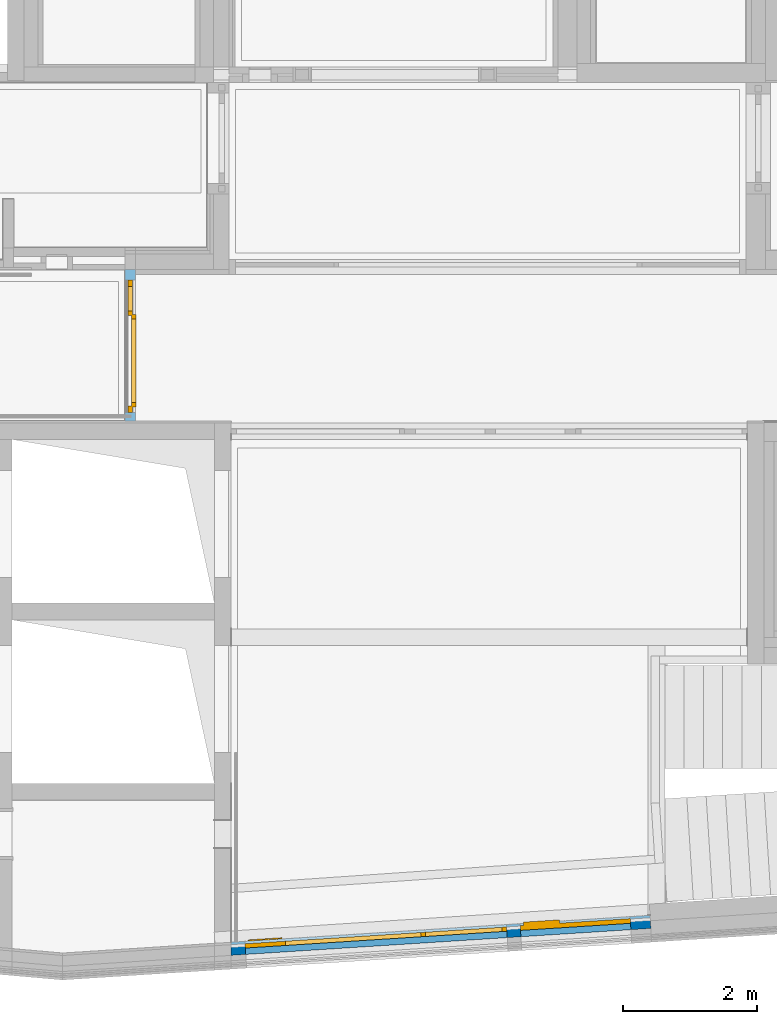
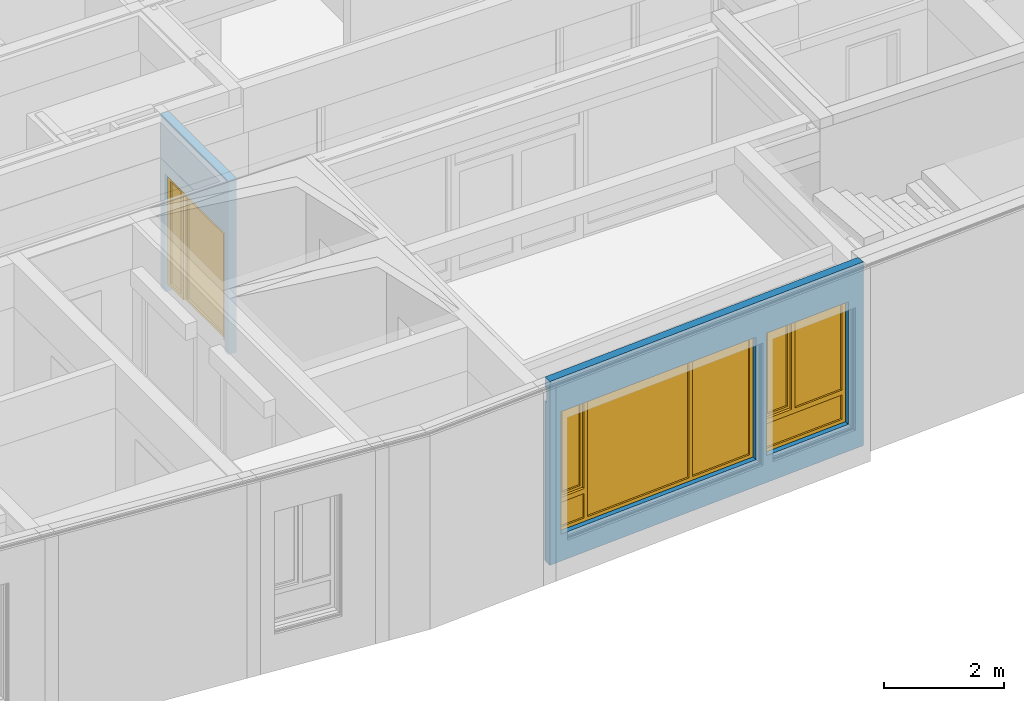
# One storey, part 84 of 222: 2 windows, 1 door, 1 wall, 5 openings, plus 2 elements that do not belong to this part.
"""IFC4 building model written with IfcOpenShell, lengths in metres."""

from ifc_helpers import new_model, entity, si_unit, converted_unit, derived_unit, frame, frame_2d, origin, origin_with_axes, place, context, subcontext, project, spatial, polyline, rectangle, outline, extrude, closed_shell, open_shell, faceted_brep, surface_model, source, transform, mapped, material, type_object, element, fill, save


model = new_model("IFC4")

# Units and contexts
model_context = context("Model", 3, precision=1e-05, world=origin())
body_context = subcontext(model_context, "Body", "Model", "MODEL_VIEW")
ifc_project = project(units=[si_unit("LENGTHUNIT", "METRE"), si_unit("AREAUNIT", "SQUARE_METRE"), si_unit("VOLUMEUNIT", "CUBIC_METRE"), si_unit("MASSUNIT", "GRAM", prefix="KILO"), converted_unit("PLANEANGLEUNIT", "DEGREE", entity("IfcPlaneAngleMeasure", 0.0174532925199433), si_unit("PLANEANGLEUNIT", "RADIAN"), dimensions=[0, 0, 0, 0, 0, 0, 0]), derived_unit("THERMALTRANSMITTANCEUNIT", [(si_unit("POWERUNIT", "WATT"), 1), (si_unit("THERMODYNAMICTEMPERATUREUNIT", "KELVIN"), -1), (si_unit("LENGTHUNIT", "METRE"), -2)]), derived_unit("VOLUMETRICFLOWRATEUNIT", [(si_unit("LENGTHUNIT", "METRE"), 3), (converted_unit("TIMEUNIT", "hour", entity("IfcTimeMeasure", 3600.0), si_unit("TIMEUNIT", "SECOND"), dimensions=[0, 0, 1, 0, 0, 0, 0]), -1), (si_unit("LENGTHUNIT", "METRE"), -1)])], contexts=[model_context])

# Site, building, storey
site_placement = place(None, origin())
site = spatial("IfcSite", under=ifc_project, at=site_placement, Name="Psychiatrie Neubau Wunstorf", CompositionType="ELEMENT")
building_placement = place(site_placement, origin())
building = spatial("IfcBuilding", under=site, at=building_placement, Name="Neubau H2 Stationsgebäude", CompositionType="ELEMENT")
storey_placement = place(building_placement, frame((0.0, 0.0, 3.6)))
storey = spatial("IfcBuildingStorey", under=building, at=storey_placement, Name="H2 Ebene +1", CompositionType="ELEMENT", Elevation=3.6)

# Wall, openings, windows
ifc_material_1 = material(Name="WA-LB")
wall_1_placement = place(storey_placement, frame((56.822464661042, -6.84826005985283, 0.0), z_axis=(0.0, 0.0, 1.0), x_axis=(-0.997944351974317, -0.0640864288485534, 0.0)))
wall_1 = element("IfcWall", 1, at=wall_1_placement, inside=storey, material=ifc_material_1, context=body_context, shape_type="SweptSolid", body=[
    extrude(outline(polyline([(-6.28769706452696, -0.0360000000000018), (-0.00231186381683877, -0.0360000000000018), (0.0, 0.0), (-6.28769523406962, 0.0), (-6.28769706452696, -0.0360000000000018)])), frame((6.28769706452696, 0.0360000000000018, 0.0), z_axis=(0.0, 0.0, 1.0), x_axis=(1.0, 0.0, 0.0)), (0.0, 0.0, 1.0), 3.25),
])
opening_1_placement = place(wall_1_placement, frame((1.94960291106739, 0.0359999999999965, 0.55), z_axis=(-5.68434188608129e-14, -1.0, 0.0), x_axis=(0.0, 0.0, 1.0)))
opening_1 = element("IfcOpeningElement", 2, at=opening_1_placement, cuts=wall_1, Name="Fensteröffnung", ObjectType="Opening", context=body_context, shape_type="SweptSolid", body=[
    extrude(outline(polyline([(2.5, 1.64999999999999), (2.5, 0.0), (0.0, 0.0), (0.0, 1.64999999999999), (2.5, 1.64999999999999)])), origin_with_axes(), (0.0, 0.0, 1.0), 0.0359999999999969),
])
opening_2_placement = place(wall_1_placement, frame((2.15538520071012, 0.0, 0.55), z_axis=(6.31593542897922e-14, 1.0, 0.0), x_axis=(0.0, 0.0, 1.0)))
opening_2 = element("IfcOpeningElement", 3, at=opening_2_placement, cuts=wall_1, Name="Fensteröffnung", ObjectType="Opening", context=body_context, shape_type="SweptSolid", body=[
    extrude(outline(polyline([(2.5, 3.92257788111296), (2.5, 0.0), (0.0, 0.0), (0.0, 3.92257788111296), (2.5, 3.92257788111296)])), origin_with_axes(), (0.0, 0.0, 1.0), 0.0359999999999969),
])
shared_shape_1 = source(origin_with_axes(), body_context, "Body", "SurfaceModel", [
    surface_model("IfcShellBasedSurfaceModel", [(1.65, 0.0, 2.5), (1.65, 0.0, 0.0), (1.58, 0.0, 0.0), (1.58, 0.0, 2.5), (1.65, 0.0700000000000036, 0.0), (1.65, 0.0700000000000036, 2.5), (1.57999999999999, 0.0700000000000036, 2.5), (1.57999999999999, 0.0700000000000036, 0.0)], [closed_shell([[[0, 1, 2, 3]], [[4, 5, 6, 7]], [[1, 0, 5, 4]], [[2, 1, 4, 7]], [[3, 2, 7, 6]], [[0, 3, 6, 5]]], orient=[[False], [False], [False], [False], [False], [False]])]),
    surface_model("IfcShellBasedSurfaceModel", [(0.07, 0.0, 2.5), (0.07, 0.0, 0.0), (0.0, 0.0, 0.0), (0.0, 0.0, 2.5), (0.07, 0.0700000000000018, 0.0), (0.07, 0.0700000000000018, 2.5), (0.0, 0.0700000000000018, 2.5), (0.0, 0.0700000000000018, 0.0)], [closed_shell([[[0, 1, 2, 3]], [[4, 5, 6, 7]], [[1, 0, 5, 4]], [[2, 1, 4, 7]], [[3, 2, 7, 6]], [[0, 3, 6, 5]]], orient=[[False], [False], [False], [False], [False], [False]])]),
    surface_model("IfcShellBasedSurfaceModel", [(1.58, 0.0, 0.07), (1.58, 0.0, 0.0), (0.07, 0.0, 0.0), (0.07, 0.0, 0.07), (1.57999999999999, 0.0700000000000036, 0.0), (1.57999999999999, 0.0700000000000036, 0.07), (0.07, 0.0700000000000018, 0.07), (0.07, 0.0700000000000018, 0.0)], [closed_shell([[[0, 1, 2, 3]], [[4, 5, 6, 7]], [[1, 0, 5, 4]], [[2, 1, 4, 7]], [[3, 2, 7, 6]], [[0, 3, 6, 5]]], orient=[[False], [False], [False], [False], [False], [False]])]),
    surface_model("IfcShellBasedSurfaceModel", [(1.58, 0.0, 2.5), (1.58, 0.0, 2.43), (0.07, 0.0, 2.43), (0.07, 0.0, 2.5), (1.57999999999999, 0.0700000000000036, 2.43), (1.57999999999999, 0.0700000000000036, 2.5), (0.07, 0.0700000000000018, 2.5), (0.07, 0.0700000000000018, 2.43)], [closed_shell([[[0, 1, 2, 3]], [[4, 5, 6, 7]], [[1, 0, 5, 4]], [[2, 1, 4, 7]], [[3, 2, 7, 6]], [[0, 3, 6, 5]]], orient=[[False], [False], [False], [False], [False], [False]])]),
    surface_model("IfcShellBasedSurfaceModel", [(1.58, 0.0, 0.67), (1.58, 0.0, 0.57), (0.07, 0.0, 0.57), (0.07, 0.0, 0.67), (1.57999999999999, 0.0700000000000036, 0.57), (1.57999999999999, 0.0700000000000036, 0.67), (0.07, 0.0700000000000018, 0.67), (0.07, 0.0700000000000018, 0.57)], [closed_shell([[[0, 1, 2, 3]], [[4, 5, 6, 7]], [[1, 0, 5, 4]], [[2, 1, 4, 7]], [[3, 2, 7, 6]], [[0, 3, 6, 5]]], orient=[[False], [False], [False], [False], [False], [False]])]),
    surface_model("IfcShellBasedSurfaceModel", [(1.57999999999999, 0.0350000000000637, 0.07), (0.07, 0.0350000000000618, 0.07), (0.07, 0.0350000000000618, 0.57), (1.57999999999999, 0.0350000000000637, 0.57)], [open_shell([[[0, 1, 2, 3]]], orient=[[False]])]),
    surface_model("IfcShellBasedSurfaceModel", [(1.08, 0.0, 2.43), (1.08, 0.0, 0.67), (1.01, 0.0, 0.67), (1.01, 0.0, 2.43), (1.08, 0.0700000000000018, 0.67), (1.08, 0.0700000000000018, 2.43), (1.01, 0.0700000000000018, 2.43), (1.01, 0.0700000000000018, 0.67)], [closed_shell([[[0, 1, 2, 3]], [[4, 5, 6, 7]], [[1, 0, 5, 4]], [[2, 1, 4, 7]], [[3, 2, 7, 6]], [[0, 3, 6, 5]]], orient=[[False], [False], [False], [False], [False], [False]])]),
    surface_model("IfcShellBasedSurfaceModel", [(1.6, -0.0499999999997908, 2.45), (1.6, -0.0499999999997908, 0.65), (1.53, -0.049999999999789, 0.65), (1.53, -0.049999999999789, 2.45), (1.6, 0.0200000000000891, 0.65), (1.6, 0.0200000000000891, 2.45), (1.53, 0.0200000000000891, 2.45), (1.53, 0.0200000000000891, 0.65)], [closed_shell([[[0, 1, 2, 3]], [[4, 5, 6, 7]], [[1, 0, 5, 4]], [[2, 1, 4, 7]], [[3, 2, 7, 6]], [[0, 3, 6, 5]]], orient=[[False], [False], [False], [False], [False], [False]])]),
    surface_model("IfcShellBasedSurfaceModel", [(1.12999999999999, -0.049999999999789, 2.45), (1.12999999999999, -0.049999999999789, 0.65), (1.05999999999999, -0.049999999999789, 0.65), (1.05999999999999, -0.049999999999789, 2.45), (1.13, 0.0200000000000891, 0.65), (1.13, 0.0200000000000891, 2.45), (1.05999999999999, 0.0200000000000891, 2.45), (1.05999999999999, 0.0200000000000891, 0.65)], [closed_shell([[[0, 1, 2, 3]], [[4, 5, 6, 7]], [[1, 0, 5, 4]], [[2, 1, 4, 7]], [[3, 2, 7, 6]], [[0, 3, 6, 5]]], orient=[[False], [False], [False], [False], [False], [False]])]),
    surface_model("IfcShellBasedSurfaceModel", [(1.53, -0.049999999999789, 0.72), (1.53, -0.049999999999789, 0.65), (1.12999999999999, -0.049999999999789, 0.65), (1.12999999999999, -0.049999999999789, 0.72), (1.53, 0.0200000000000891, 0.65), (1.53, 0.0200000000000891, 0.72), (1.13, 0.0200000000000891, 0.72), (1.13, 0.0200000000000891, 0.65)], [closed_shell([[[0, 1, 2, 3]], [[4, 5, 6, 7]], [[1, 0, 5, 4]], [[2, 1, 4, 7]], [[3, 2, 7, 6]], [[0, 3, 6, 5]]], orient=[[False], [False], [False], [False], [False], [False]])]),
    surface_model("IfcShellBasedSurfaceModel", [(1.53, -0.049999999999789, 2.45), (1.53, -0.049999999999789, 2.38), (1.12999999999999, -0.049999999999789, 2.38), (1.12999999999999, -0.049999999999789, 2.45), (1.53, 0.0200000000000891, 2.38), (1.53, 0.0200000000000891, 2.45), (1.13, 0.0200000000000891, 2.45), (1.13, 0.0200000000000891, 2.38)], [closed_shell([[[0, 1, 2, 3]], [[4, 5, 6, 7]], [[1, 0, 5, 4]], [[2, 1, 4, 7]], [[3, 2, 7, 6]], [[0, 3, 6, 5]]], orient=[[False], [False], [False], [False], [False], [False]])]),
    surface_model("IfcShellBasedSurfaceModel", [(1.01, 0.0350000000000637, 0.67), (0.07, 0.0350000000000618, 0.67), (0.07, 0.0350000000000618, 2.43), (1.01, 0.0350000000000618, 2.43)], [open_shell([[[0, 1, 2, 3]]], orient=[[False]])]),
    surface_model("IfcShellBasedSurfaceModel", [(1.53, -0.0149999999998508, 0.72), (1.12999999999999, -0.0149999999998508, 0.72), (1.12999999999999, -0.0149999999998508, 2.38), (1.53, -0.0149999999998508, 2.38)], [open_shell([[[0, 1, 2, 3]]], orient=[[False]])]),
])
window_1_placement = place(opening_1_placement, frame((0.0, 1.65, 0.00600000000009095), z_axis=(1.0, 0.0, 0.0), x_axis=(0.0, -1.0, -5.63576962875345e-14)))
window_1 = element("IfcWindow", 4, at=window_1_placement, inside=storey, Name="Fenster", OverallHeight=2.5, OverallWidth=1.65, PartitioningType="USERDEFINED", PredefinedType="WINDOW", context=body_context, shape_type="MappedRepresentation", body=[
    mapped(shared_shape_1, transform((0.0, 0.0, 0.0), x_axis=(1.0, 0.0, 0.0), y_axis=(0.0, 1.0, 0.0), z_axis=(0.0, 0.0, 1.0), scale=1.0)),
])
fill(opening_1, window_1)
shared_shape_2 = source(origin_with_axes(), body_context, "Body", "SurfaceModel", [
    surface_model("IfcShellBasedSurfaceModel", [(0.0, 0.0, 2.5), (0.0699999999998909, 0.0, 2.5), (0.0699999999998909, 0.0, 0.0), (0.0, 0.0, 0.0), (0.0, 0.0700000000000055, 0.0), (0.0699999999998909, 0.0700000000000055, 0.0), (0.0699999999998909, 0.0700000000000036, 2.5), (0.0, 0.0700000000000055, 2.5)], [closed_shell([[[0, 1, 2, 3]], [[4, 5, 6, 7]], [[3, 4, 7, 0]], [[2, 5, 4, 3]], [[1, 6, 5, 2]], [[0, 7, 6, 1]]], orient=[[False], [False], [False], [False], [False], [False]])]),
    surface_model("IfcShellBasedSurfaceModel", [(3.85257788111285, 0.0, 2.5), (3.92257788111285, 0.0, 2.5), (3.92257788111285, 0.0, 0.0), (3.85257788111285, 0.0, 0.0), (3.85257788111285, 0.0700000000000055, 0.0), (3.92257788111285, 0.0700000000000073, 0.0), (3.92257788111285, 0.0700000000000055, 2.5), (3.85257788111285, 0.0700000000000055, 2.5)], [closed_shell([[[0, 1, 2, 3]], [[4, 5, 6, 7]], [[3, 4, 7, 0]], [[2, 5, 4, 3]], [[1, 6, 5, 2]], [[0, 7, 6, 1]]], orient=[[False], [False], [False], [False], [False], [False]])]),
    surface_model("IfcShellBasedSurfaceModel", [(0.0699999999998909, 0.0, 0.07), (3.85257788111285, 0.0, 0.07), (3.85257788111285, 0.0, 0.0), (0.0699999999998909, 0.0, 0.0), (0.0699999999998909, 0.0700000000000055, 0.0), (3.85257788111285, 0.0700000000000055, 0.0), (3.85257788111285, 0.0700000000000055, 0.07), (0.0699999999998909, 0.0700000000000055, 0.07)], [closed_shell([[[0, 1, 2, 3]], [[4, 5, 6, 7]], [[3, 4, 7, 0]], [[2, 5, 4, 3]], [[1, 6, 5, 2]], [[0, 7, 6, 1]]], orient=[[False], [False], [False], [False], [False], [False]])]),
    surface_model("IfcShellBasedSurfaceModel", [(0.0699999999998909, 0.0, 2.5), (3.85257788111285, 0.0, 2.5), (3.85257788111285, 0.0, 2.43), (0.0699999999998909, 0.0, 2.43), (0.0699999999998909, 0.0700000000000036, 2.43), (3.85257788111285, 0.0700000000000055, 2.43), (3.85257788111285, 0.0700000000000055, 2.5), (0.0699999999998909, 0.0700000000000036, 2.5)], [closed_shell([[[0, 1, 2, 3]], [[4, 5, 6, 7]], [[3, 4, 7, 0]], [[2, 5, 4, 3]], [[1, 6, 5, 2]], [[0, 7, 6, 1]]], orient=[[False], [False], [False], [False], [False], [False]])]),
    surface_model("IfcShellBasedSurfaceModel", [(0.534999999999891, 0.0, 2.43), (0.604999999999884, 0.0, 2.43), (0.604999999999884, 0.0, 0.07), (0.534999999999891, 0.0, 0.07), (0.534999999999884, 0.0700000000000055, 0.07), (0.604999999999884, 0.0700000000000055, 0.07), (0.604999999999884, 0.0700000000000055, 2.43), (0.534999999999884, 0.0700000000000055, 2.43)], [closed_shell([[[0, 1, 2, 3]], [[4, 5, 6, 7]], [[3, 4, 7, 0]], [[2, 5, 4, 3]], [[1, 6, 5, 2]], [[0, 7, 6, 1]]], orient=[[False], [False], [False], [False], [False], [False]])]),
    surface_model("IfcShellBasedSurfaceModel", [(2.63499999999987, 0.0, 2.43), (2.70499999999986, 0.0, 2.43), (2.70499999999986, 0.0, 0.07), (2.63499999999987, 0.0, 0.07), (2.63499999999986, 0.0700000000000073, 0.07), (2.70499999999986, 0.0700000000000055, 0.07), (2.70499999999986, 0.0700000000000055, 2.43), (2.63499999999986, 0.0700000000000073, 2.43)], [closed_shell([[[0, 1, 2, 3]], [[4, 5, 6, 7]], [[3, 4, 7, 0]], [[2, 5, 4, 3]], [[1, 6, 5, 2]], [[0, 7, 6, 1]]], orient=[[False], [False], [False], [False], [False], [False]])]),
    surface_model("IfcShellBasedSurfaceModel", [(0.0699999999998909, 0.0, 0.67), (0.534999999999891, 0.0, 0.67), (0.534999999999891, 0.0, 0.57), (0.0699999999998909, 0.0, 0.57), (0.0699999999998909, 0.0700000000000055, 0.57), (0.534999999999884, 0.0700000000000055, 0.57), (0.534999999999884, 0.0700000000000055, 0.67), (0.0699999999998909, 0.0700000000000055, 0.67)], [closed_shell([[[0, 1, 2, 3]], [[4, 5, 6, 7]], [[3, 4, 7, 0]], [[2, 5, 4, 3]], [[1, 6, 5, 2]], [[0, 7, 6, 1]]], orient=[[False], [False], [False], [False], [False], [False]])]),
    surface_model("IfcShellBasedSurfaceModel", [(0.604999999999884, 0.0350000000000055, 0.07), (0.604999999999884, 0.0350000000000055, 2.43), (2.63499999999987, 0.0350000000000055, 2.43), (2.63499999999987, 0.0350000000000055, 0.07)], [open_shell([[[0, 1, 2, 3]]], orient=[[False]])]),
    surface_model("IfcShellBasedSurfaceModel", [(2.70499999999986, 0.0350000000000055, 0.07), (2.70499999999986, 0.0350000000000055, 2.43), (3.85257788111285, 0.0350000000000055, 2.43), (3.85257788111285, 0.0350000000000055, 0.07)], [open_shell([[[0, 1, 2, 3]]], orient=[[False]])]),
    surface_model("IfcShellBasedSurfaceModel", [(0.0699999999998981, 0.0350000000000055, 0.07), (0.0699999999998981, 0.0350000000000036, 0.57), (0.534999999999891, 0.0350000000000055, 0.57), (0.534999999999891, 0.0350000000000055, 0.07)], [open_shell([[[0, 1, 2, 3]]], orient=[[False]])]),
    surface_model("IfcShellBasedSurfaceModel", [(0.0499999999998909, 0.0500000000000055, 2.45), (0.119999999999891, 0.0500000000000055, 2.45), (0.119999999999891, 0.0500000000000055, 0.65), (0.0499999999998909, 0.0500000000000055, 0.65), (0.0499999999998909, 0.120000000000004, 0.65), (0.119999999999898, 0.120000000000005, 0.65), (0.119999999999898, 0.120000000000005, 2.45), (0.0499999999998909, 0.120000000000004, 2.45)], [closed_shell([[[0, 1, 2, 3]], [[4, 5, 6, 7]], [[3, 4, 7, 0]], [[2, 5, 4, 3]], [[1, 6, 5, 2]], [[0, 7, 6, 1]]], orient=[[False], [False], [False], [False], [False], [False]])]),
    surface_model("IfcShellBasedSurfaceModel", [(0.484999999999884, 0.0500000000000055, 2.45), (0.554999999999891, 0.0500000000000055, 2.45), (0.554999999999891, 0.0500000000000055, 0.65), (0.484999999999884, 0.0500000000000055, 0.65), (0.484999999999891, 0.120000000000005, 0.65), (0.554999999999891, 0.120000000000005, 0.65), (0.554999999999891, 0.120000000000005, 2.45), (0.484999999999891, 0.120000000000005, 2.45)], [closed_shell([[[0, 1, 2, 3]], [[4, 5, 6, 7]], [[3, 4, 7, 0]], [[2, 5, 4, 3]], [[1, 6, 5, 2]], [[0, 7, 6, 1]]], orient=[[False], [False], [False], [False], [False], [False]])]),
    surface_model("IfcShellBasedSurfaceModel", [(0.119999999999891, 0.0500000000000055, 0.72), (0.484999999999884, 0.0500000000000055, 0.72), (0.484999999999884, 0.0500000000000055, 0.65), (0.119999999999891, 0.0500000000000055, 0.65), (0.119999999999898, 0.120000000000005, 0.65), (0.484999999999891, 0.120000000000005, 0.65), (0.484999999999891, 0.120000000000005, 0.72), (0.119999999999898, 0.120000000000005, 0.72)], [closed_shell([[[0, 1, 2, 3]], [[4, 5, 6, 7]], [[3, 4, 7, 0]], [[2, 5, 4, 3]], [[1, 6, 5, 2]], [[0, 7, 6, 1]]], orient=[[False], [False], [False], [False], [False], [False]])]),
    surface_model("IfcShellBasedSurfaceModel", [(0.119999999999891, 0.0500000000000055, 2.45), (0.484999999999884, 0.0500000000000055, 2.45), (0.484999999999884, 0.0500000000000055, 2.38), (0.119999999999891, 0.0500000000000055, 2.38), (0.119999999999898, 0.120000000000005, 2.38), (0.484999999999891, 0.120000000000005, 2.38), (0.484999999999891, 0.120000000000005, 2.45), (0.119999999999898, 0.120000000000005, 2.45)], [closed_shell([[[0, 1, 2, 3]], [[4, 5, 6, 7]], [[3, 4, 7, 0]], [[2, 5, 4, 3]], [[1, 6, 5, 2]], [[0, 7, 6, 1]]], orient=[[False], [False], [False], [False], [False], [False]])]),
    surface_model("IfcShellBasedSurfaceModel", [(0.119999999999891, 0.0850000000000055, 0.72), (0.119999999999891, 0.0850000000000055, 2.38), (0.484999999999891, 0.0850000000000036, 2.38), (0.484999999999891, 0.0850000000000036, 0.72)], [open_shell([[[0, 1, 2, 3]]], orient=[[False]])]),
])
window_2_placement = place(opening_2_placement, frame((0.0, 3.92257788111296, 0.100000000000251), z_axis=(1.0, 0.0, 0.0), x_axis=(0.0, -1.0, -6.31716901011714e-14)))
window_2 = element("IfcWindow", 5, at=window_2_placement, inside=storey, Name="Fenster", OverallHeight=2.5, OverallWidth=3.92258, PartitioningType="USERDEFINED", PredefinedType="WINDOW", context=body_context, shape_type="MappedRepresentation", body=[
    mapped(shared_shape_2, transform((0.0, 0.0, 0.0), x_axis=(1.0, 0.0, 0.0), y_axis=(0.0, 1.0, 0.0), z_axis=(0.0, 0.0, 1.0), scale=1.0)),
])
fill(opening_2, window_2)

# Wall, openings
ifc_material_2 = material(Name="WA-HD")
wall_2_placement = place(storey_placement, frame((50.5500000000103, -7.447471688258, 0.0)))
wall_2 = element("IfcWall", 6, at=wall_2_placement, inside=storey, material=ifc_material_2, context=body_context, shape_type="Brep", body=[
    faceted_brep([(0.0, 0.115236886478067, 3.55), (0.0, 0.115236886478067, 3.25), (6.27765155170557, 0.518377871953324, 3.25), (6.27765155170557, 0.518377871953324, 3.55), (6.27476880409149, 0.563285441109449, 3.55), (0.0, 0.160329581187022, 3.55), (0.0, 0.160329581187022, 3.25), (6.27476880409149, 0.563285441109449, 3.25), (6.2747699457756, 0.56328551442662, 3.75), (0.0, 0.160329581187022, 3.75), (6.28501565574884, 0.403613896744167, 0.0), (0.0, 0.0, 0.0), (0.0, 0.0, 3.75), (6.28501565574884, 0.403613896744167, 3.75), (0.0, 0.160329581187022, 0.0), (6.2747699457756, 0.56328551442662, 0.0)], [[[0, 1, 2, 3]], [[0, 3, 4, 5]], [[6, 7, 2, 1]], [[4, 8, 9, 5]], [[10, 11, 12, 13]], [[5, 9, 12, 11, 14, 6, 1, 0]], [[6, 14, 15, 7]], [[3, 2, 7, 15, 10, 13, 8, 4]], [[8, 13, 12, 9]], [[10, 15, 14, 11]]], orient=[[False], [False], [False], [False], [False], [False], [False], [False], [False], [False]]),
])
opening_3_placement = place(wall_2_placement, frame((4.33943038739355, 0.278671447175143, 0.55), z_axis=(-0.0640864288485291, 0.997944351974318, 0.0), x_axis=(0.0, 0.0, 1.0)))
element("IfcOpeningElement", 7, at=opening_3_placement, cuts=wall_2, Name="Fensteröffnung", ObjectType="Opening", context=body_context, shape_type="SweptSolid", body=[
    extrude(outline(polyline([(2.5, 1.65), (2.5, 0.0), (0.0, 0.0), (0.0, 1.65), (2.5, 1.65)])), origin_with_axes(), (0.0, 0.0, 1.0), 0.160000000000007),
])
opening_4_placement = place(wall_2_placement, frame((4.12381728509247, 0.425154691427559, 0.55), z_axis=(0.0640864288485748, -0.997944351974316, 0.0), x_axis=(0.0, 0.0, 1.0)))
element("IfcOpeningElement", 8, at=opening_4_placement, cuts=wall_2, Name="Fensteröffnung", ObjectType="Opening", context=body_context, shape_type="SweptSolid", body=[
    extrude(outline(polyline([(2.5, 3.92257788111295), (2.5, 0.0), (0.0, 0.0), (0.0, 3.92257788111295), (2.5, 3.92257788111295)])), origin_with_axes(), (0.0, 0.0, 1.0), 0.160000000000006),
])

# Wall, opening, door
ifc_material_3 = material(Name="WI-LB")
wall_3_placement = place(storey_placement, frame((48.9646906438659, 2.81749969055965, 0.0), z_axis=(0.0, 0.0, 1.0), x_axis=(0.0, -1.0, 0.0)))
wall_3 = element("IfcWall", 9, at=wall_3_placement, inside=storey, material=ifc_material_3, context=body_context, shape_type="SweptSolid", body=[
    extrude(rectangle(XDim=2.26749969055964, YDim=0.155, at=frame_2d((1.13374984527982, 0.0775), x_axis=(1.0, 0.0))), origin_with_axes(), (0.0, 0.0, 1.0), 3.55),
])
opening_5_placement = place(wall_3_placement, frame((2.13749984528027, 0.155, 0.0), z_axis=(0.0, -1.0, 0.0), x_axis=(0.0, 0.0, 1.0)))
opening_5 = element("IfcOpeningElement", 10, at=opening_5_placement, cuts=wall_3, Name="Türöffnung", ObjectType="Opening", context=body_context, shape_type="SweptSolid", body=[
    extrude(outline(polyline([(2.41, 1.9825), (2.41, 0.0), (0.0, 0.0), (0.0, 1.9825), (2.41, 1.9825)])), origin_with_axes(), (0.0, 0.0, 1.0), 0.155),
])
ifc_material_4 = material(Name="TI-1F-SG-D-M")
door_type = type_object("IfcDoorType", Name="SMT", OperationType="NOTDEFINED", ParameterTakesPrecedence=False, PredefinedType="DOOR")
shared_shape_3 = source(origin_with_axes(), body_context, "Body", "Brep", [
    faceted_brep([(2.11, 0.127500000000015, 0.0), (2.01, 0.127500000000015, 0.0), (2.01, 0.0275000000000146, 0.0), (2.11, 0.0275000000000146, 0.0), (2.11, 0.0275000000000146, 3.55), (2.01, 0.0275000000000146, 3.55), (2.01, 0.127500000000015, 3.55), (2.11, 0.127500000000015, 3.55)], [[[0, 1, 2, 3]], [[4, 5, 6, 7]], [[3, 4, 7, 0]], [[2, 5, 4, 3]], [[1, 6, 5, 2]], [[0, 7, 6, 1]]], orient=[[False], [False], [False], [False], [False], [False]]),
    faceted_brep([(-0.0275, 0.127500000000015, 0.0), (-0.1275, 0.127500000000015, 0.0), (-0.1275, 0.0275000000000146, 0.0), (-0.0275, 0.0275000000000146, 0.0), (-0.0275, 0.0275000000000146, 3.55), (-0.1275, 0.0275000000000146, 3.55), (-0.1275, 0.127500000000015, 3.55), (-0.0275, 0.127500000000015, 3.55)], [[[0, 1, 2, 3]], [[4, 5, 6, 7]], [[3, 4, 7, 0]], [[2, 5, 4, 3]], [[1, 6, 5, 2]], [[0, 7, 6, 1]]], orient=[[False], [False], [False], [False], [False], [False]]),
    faceted_brep([(2.01, 0.127500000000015, 2.4375), (-0.0275000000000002, 0.127500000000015, 2.4375), (-0.0275000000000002, 0.0275000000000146, 2.4375), (2.01, 0.0275000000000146, 2.4375), (2.01, 0.0275000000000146, 2.5375), (-0.0275000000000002, 0.0275000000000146, 2.5375), (-0.0275000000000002, 0.127500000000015, 2.5375), (2.01, 0.127500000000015, 2.5375)], [[[0, 1, 2, 3]], [[4, 5, 6, 7]], [[3, 4, 7, 0]], [[2, 5, 4, 3]], [[1, 6, 5, 2]], [[0, 7, 6, 1]]], orient=[[False], [False], [False], [False], [False], [False]]),
])
shared_shape_4 = source(origin_with_axes(), body_context, "Body", "SurfaceModel", [
    surface_model("IfcShellBasedSurfaceModel", [(1.9825, 0.112500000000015, 2.41), (1.8825, 0.112500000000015, 2.41), (1.8825, 0.112500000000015, 0.15), (1.9825, 0.112500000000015, 0.15), (1.9825, 0.0425000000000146, 0.15), (1.8825, 0.0425000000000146, 0.15), (1.8825, 0.0425000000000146, 2.41), (1.9825, 0.0425000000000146, 2.41)], [closed_shell([[[0, 1, 2, 3]], [[4, 5, 6, 7]], [[3, 4, 7, 0]], [[2, 5, 4, 3]], [[1, 6, 5, 2]], [[0, 7, 6, 1]]], orient=[[False], [False], [False], [False], [False], [False]])]),
    surface_model("IfcShellBasedSurfaceModel", [(0.1, 0.112500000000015, 2.41), (0.0, 0.112500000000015, 2.41), (0.0, 0.112500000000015, 0.15), (0.1, 0.112500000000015, 0.15), (0.1, 0.0425000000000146, 0.15), (0.0, 0.0425000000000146, 0.15), (0.0, 0.0425000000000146, 2.41), (0.1, 0.0425000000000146, 2.41)], [closed_shell([[[0, 1, 2, 3]], [[4, 5, 6, 7]], [[3, 4, 7, 0]], [[2, 5, 4, 3]], [[1, 6, 5, 2]], [[0, 7, 6, 1]]], orient=[[False], [False], [False], [False], [False], [False]])]),
    surface_model("IfcShellBasedSurfaceModel", [(1.8825, 0.112500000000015, 2.41), (0.1, 0.112500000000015, 2.41), (0.1, 0.112500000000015, 2.31), (1.8825, 0.112500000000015, 2.31), (1.8825, 0.0425000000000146, 2.31), (0.1, 0.0425000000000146, 2.31), (0.1, 0.0425000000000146, 2.41), (1.8825, 0.0425000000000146, 2.41)], [closed_shell([[[0, 1, 2, 3]], [[4, 5, 6, 7]], [[3, 4, 7, 0]], [[2, 5, 4, 3]], [[1, 6, 5, 2]], [[0, 7, 6, 1]]], orient=[[False], [False], [False], [False], [False], [False]])]),
    surface_model("IfcShellBasedSurfaceModel", [(1.52, 0.112500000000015, 2.31), (1.45, 0.112500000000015, 2.31), (1.45, 0.112500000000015, 0.15), (1.52, 0.112500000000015, 0.15), (1.52, 0.0425000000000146, 0.15), (1.45, 0.0425000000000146, 0.15), (1.45, 0.0425000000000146, 2.31), (1.52, 0.0425000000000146, 2.31)], [closed_shell([[[0, 1, 2, 3]], [[4, 5, 6, 7]], [[3, 4, 7, 0]], [[2, 5, 4, 3]], [[1, 6, 5, 2]], [[0, 7, 6, 1]]], orient=[[False], [False], [False], [False], [False], [False]])]),
    surface_model("IfcShellBasedSurfaceModel", [(1.8825, 0.112500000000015, 0.22), (1.52, 0.112500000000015, 0.22), (1.52, 0.112500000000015, 0.15), (1.8825, 0.112500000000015, 0.15), (1.8825, 0.0425000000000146, 0.15), (1.52, 0.0425000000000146, 0.15), (1.52, 0.0425000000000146, 0.22), (1.8825, 0.0425000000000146, 0.22)], [closed_shell([[[0, 1, 2, 3]], [[4, 5, 6, 7]], [[3, 4, 7, 0]], [[2, 5, 4, 3]], [[1, 6, 5, 2]], [[0, 7, 6, 1]]], orient=[[False], [False], [False], [False], [False], [False]])]),
    surface_model("IfcShellBasedSurfaceModel", [(1.47, 0.0625000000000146, 2.33), (1.4, 0.0625000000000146, 2.33), (1.4, 0.0625000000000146, 0.13), (1.47, 0.0625000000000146, 0.13), (1.47, -0.00749999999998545, 0.13), (1.4, -0.00749999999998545, 0.13), (1.4, -0.00749999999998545, 2.33), (1.47, -0.00749999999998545, 2.33)], [closed_shell([[[0, 1, 2, 3]], [[4, 5, 6, 7]], [[3, 4, 7, 0]], [[2, 5, 4, 3]], [[1, 6, 5, 2]], [[0, 7, 6, 1]]], orient=[[False], [False], [False], [False], [False], [False]])]),
    surface_model("IfcShellBasedSurfaceModel", [(0.15, 0.0625000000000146, 2.33), (0.08, 0.0625000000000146, 2.33), (0.08, 0.0625000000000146, 0.13), (0.15, 0.0625000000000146, 0.13), (0.15, -0.00749999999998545, 0.13), (0.08, -0.00749999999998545, 0.13), (0.08, -0.00749999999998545, 2.33), (0.15, -0.00749999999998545, 2.33)], [closed_shell([[[0, 1, 2, 3]], [[4, 5, 6, 7]], [[3, 4, 7, 0]], [[2, 5, 4, 3]], [[1, 6, 5, 2]], [[0, 7, 6, 1]]], orient=[[False], [False], [False], [False], [False], [False]])]),
    surface_model("IfcShellBasedSurfaceModel", [(1.4, 0.0625000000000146, 0.18), (0.15, 0.0625000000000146, 0.18), (0.15, 0.0625000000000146, 0.13), (1.4, 0.0625000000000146, 0.13), (1.4, -0.00749999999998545, 0.13), (0.15, -0.00749999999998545, 0.13), (0.15, -0.00749999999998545, 0.18), (1.4, -0.00749999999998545, 0.18)], [closed_shell([[[0, 1, 2, 3]], [[4, 5, 6, 7]], [[3, 4, 7, 0]], [[2, 5, 4, 3]], [[1, 6, 5, 2]], [[0, 7, 6, 1]]], orient=[[False], [False], [False], [False], [False], [False]])]),
    surface_model("IfcShellBasedSurfaceModel", [(1.4, 0.0625000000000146, 2.33), (0.15, 0.0625000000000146, 2.33), (0.15, 0.0625000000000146, 2.26), (1.4, 0.0625000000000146, 2.26), (1.4, -0.00749999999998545, 2.26), (0.15, -0.00749999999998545, 2.26), (0.15, -0.00749999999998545, 2.33), (1.4, -0.00749999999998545, 2.33)], [closed_shell([[[0, 1, 2, 3]], [[4, 5, 6, 7]], [[3, 4, 7, 0]], [[2, 5, 4, 3]], [[1, 6, 5, 2]], [[0, 7, 6, 1]]], orient=[[False], [False], [False], [False], [False], [False]])]),
    surface_model("IfcShellBasedSurfaceModel", [(1.4, 0.0275000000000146, 0.18), (1.4, 0.0275000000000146, 2.26), (0.15, 0.0275000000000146, 2.26), (0.15, 0.0275000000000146, 0.18)], [open_shell([[[0, 1, 2, 3]]], orient=[[False]])]),
    surface_model("IfcShellBasedSurfaceModel", [(1.8825, 0.0775000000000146, 0.22), (1.8825, 0.0775000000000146, 2.31), (1.52, 0.0775000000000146, 2.31), (1.52, 0.0775000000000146, 0.22)], [open_shell([[[0, 1, 2, 3]]], orient=[[False]])]),
])
door_placement = place(opening_5_placement, frame((0.0, 0.0, 0.0), z_axis=(1.0, 0.0, 0.0), x_axis=(0.0, 1.0, 0.0)))
door = element("IfcDoor", 11, at=door_placement, inside=storey, type_object=door_type, material=ifc_material_4, Name="SMT", OverallHeight=2.41, OverallWidth=1.9825, context=body_context, shape_type="MappedRepresentation", body=[
    mapped(shared_shape_3, transform((0.0, 0.0, 0.0), x_axis=(1.0, 0.0, 0.0), y_axis=(0.0, 1.0, 0.0), z_axis=(0.0, 0.0, 1.0), scale=1.0)),
    mapped(shared_shape_4, transform((0.0, 0.0, 0.0), x_axis=(1.0, 0.0, 0.0), y_axis=(0.0, 1.0, 0.0), z_axis=(0.0, 0.0, 1.0), scale=1.0)),
])
fill(opening_5, door)

save(model, "model.ifc")
